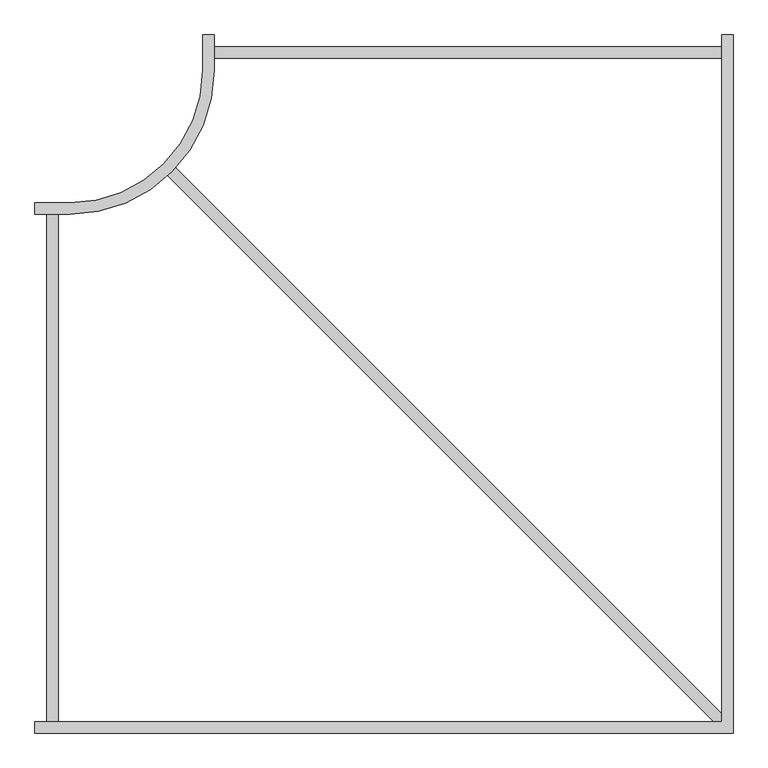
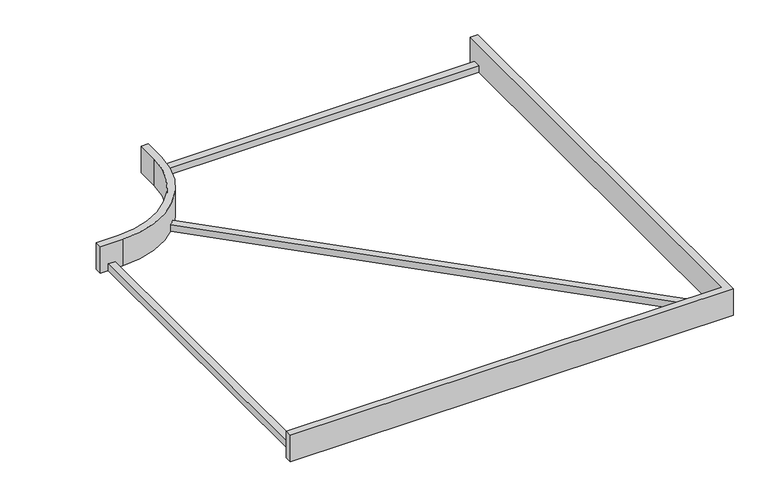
"""IFC4 building model written with IfcOpenShell, lengths in millimetres: cable carrier fitting geometry, Common_L 型接合部、交差梁付き : 03 強電_低圧."""

from ifc_helpers import new_model, si_unit, point, frame, frame_2d, origin, place, context, project, spatial, polyline, circle_curve, trimmed, segment, composite_curve, outline, extrude, source, transform, mapped, element, save


def cable_carrier_fitting_78c1f1b2(model_context):
    return source(origin(), model_context, "Body", "SweptSolid", [
        extrude(outline(composite_curve([segment(polyline([(574.6, -574.6), (556.6394878, -574.6), (-679.063021, 661.1025088)]), True, "CONTINUOUS"), segment(trimmed(circle_curve(frame_2d((-900.0, 900.0)), 325.4), [point((-679.063021, 661.1025088))], [point((-661.1025088, 679.063021))], True, "CARTESIAN"), True, "CONTINUOUS"), segment(polyline([(-661.1025088, 679.063021), (574.6, -556.6394878), (574.6, -574.6)]), True, "CONTINUOUS")], self_intersect=False)), frame((0.0, 0.0, -50.0), z_axis=(0.0, 0.0, 1.0), x_axis=(1.0, 0.0, 0.0)), (0.0, 0.0, 1.0), 25.4),
        extrude(outline(polyline([(-980.0, -600.0), (-980.0, -574.6), (574.6, -574.6), (574.6, 980.0), (600.0, 980.0), (600.0, -600.0), (-980.0, -600.0)])), frame((0.0, 0.0, -50.0), z_axis=(0.0, 0.0, 1.0), x_axis=(1.0, 0.0, 0.0)), (0.0, 0.0, 1.0), 100.0),
        extrude(outline(composite_curve([segment(polyline([(-980.0, 574.6), (-980.0, 600.0), (-900.0, 600.0)]), True, "CONTINUOUS"), segment(trimmed(circle_curve(frame_2d((-900.0, 900.0)), 300.0), [point((-900.0, 600.0))], [point((-600.0, 900.0))], True, "CARTESIAN"), True, "CONTINUOUS"), segment(polyline([(-600.0, 900.0), (-600.0, 980.0), (-574.6, 980.0), (-574.6, 900.0)]), True, "CONTINUOUS"), segment(trimmed(circle_curve(frame_2d((-900.0, 900.0)), 325.4), [point((-574.6, 900.0))], [point((-900.0, 574.6))], False, "CARTESIAN"), True, "CONTINUOUS"), segment(polyline([(-900.0, 574.6), (-980.0, 574.6)]), True, "CONTINUOUS")], self_intersect=False)), frame((0.0, 0.0, -50.0), z_axis=(0.0, 0.0, 1.0), x_axis=(1.0, 0.0, 0.0)), (0.0, 0.0, 1.0), 100.0),
        extrude(outline(polyline([(-574.6, 927.3), (-574.6, 952.7), (574.6, 952.7), (574.6, 927.3), (-574.6, 927.3)])), frame((0.0, 0.0, -50.0), z_axis=(0.0, 0.0, 1.0), x_axis=(1.0, 0.0, 0.0)), (0.0, 0.0, 1.0), 25.4),
        extrude(outline(polyline([(-952.7, 574.6), (-927.3, 574.6), (-927.3, -574.6), (-952.7, -574.6), (-952.7, 574.6)])), frame((0.0, 0.0, -50.0), z_axis=(0.0, 0.0, 1.0), x_axis=(1.0, 0.0, 0.0)), (0.0, 0.0, 1.0), 25.4),
    ])


if __name__ == "__main__":
    model = new_model("IFC4")
    model_context = context("Model", 3, world=origin())
    ifc_project = project(units=[si_unit("LENGTHUNIT", "METRE", prefix="MILLI")], contexts=[model_context])
    site = spatial("IfcSite", under=ifc_project)
    building = spatial("IfcBuilding", under=site)
    placement = place(None, origin())
    cable_carrier_fitting_shape = cable_carrier_fitting_78c1f1b2(model_context)
    element("IfcCableCarrierFitting", 1, ObjectType="Common_L 型接合部、交差梁付き : 03 強電_低圧", at=placement, inside=building, context=model_context, shape_type="MappedRepresentation", body=[
        mapped(cable_carrier_fitting_shape, transform((0.0, 0.0, 0.0), x_axis=(1.0, 0.0, 0.0), y_axis=(0.0, 1.0, 0.0), z_axis=(0.0, 0.0, 1.0))),
    ])
    save(model, "model.ifc")
